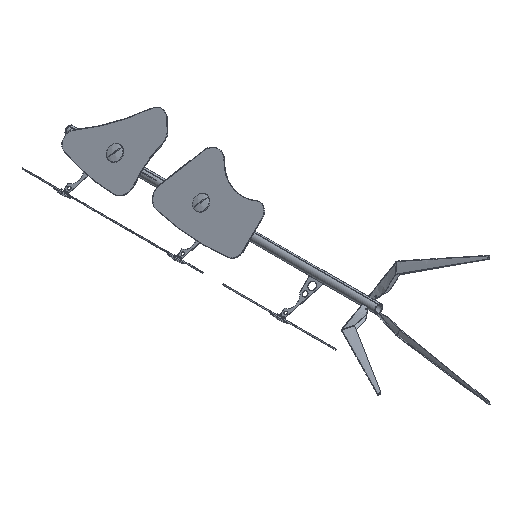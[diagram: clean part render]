
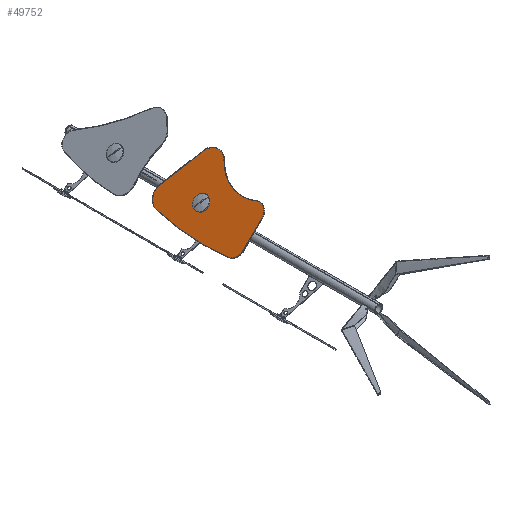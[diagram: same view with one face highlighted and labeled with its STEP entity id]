
A CAD part, isometric view. The second image highlights one B-rep face of the part: STEP entity #49752.
In plain terms, the highlighted planar face has unit normal (-0.707, 0, 0.707).
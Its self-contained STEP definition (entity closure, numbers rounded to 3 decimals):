
#350 = DIRECTION ( 'NONE',  ( 0.707, -0.002, 0.707 ) ) ;
#981 = DIRECTION ( 'NONE',  ( 0.165, 0.972, 0.165 ) ) ;
#1439 = VERTEX_POINT ( 'NONE', #40083 ) ;
#2820 = AXIS2_PLACEMENT_3D ( 'NONE', #37188, #12757, #981 ) ;
#4659 = CARTESIAN_POINT ( 'NONE',  ( -161.239, 424.54, 85.541 ) ) ;
#4828 = FACE_BOUND ( 'NONE', #33213, .T. ) ;
#4867 = CARTESIAN_POINT ( 'NONE',  ( -32.459, 424.156, 214.321 ) ) ;
#5052 = ORIENTED_EDGE ( 'NONE', *, *, #23536, .T. ) ;
#5079 = DIRECTION ( 'NONE',  ( 0.165, 0.972, 0.165 ) ) ;
#5292 = ORIENTED_EDGE ( 'NONE', *, *, #52045, .T. ) ;
#5536 = VERTEX_POINT ( 'NONE', #49324 ) ;
#6674 = DIRECTION ( 'NONE',  ( -0.707, 0., 0.707 ) ) ;
#6862 = DIRECTION ( 'NONE',  ( 0.165, 0.972, 0.165 ) ) ;
#7805 = EDGE_CURVE ( 'NONE', #10611, #35085, #17494, .T. ) ;
#8104 = ORIENTED_EDGE ( 'NONE', *, *, #26688, .T. ) ;
#8793 = EDGE_CURVE ( 'NONE', #19416, #11682, #24288, .T. ) ;
#9175 = DIRECTION ( 'NONE',  ( 0.165, 0.972, 0.165 ) ) ;
#10146 = CIRCLE ( 'NONE', #51216, 1131.5 ) ;
#10611 = VERTEX_POINT ( 'NONE', #17339 ) ;
#11046 = ORIENTED_EDGE ( 'NONE', *, *, #14835, .T. ) ;
#11682 = VERTEX_POINT ( 'NONE', #46524 ) ;
#12059 = AXIS2_PLACEMENT_3D ( 'NONE', #16368, #16652, #5079 ) ;
#12430 = EDGE_CURVE ( 'NONE', #39413, #1439, #39643, .T. ) ;
#12438 = DIRECTION ( 'NONE',  ( 0.165, 0.972, 0.165 ) ) ;
#12757 = DIRECTION ( 'NONE',  ( -0.707, 0., 0.707 ) ) ;
#14306 = DIRECTION ( 'NONE',  ( 0.165, 0.972, 0.165 ) ) ;
#14341 = ORIENTED_EDGE ( 'NONE', *, *, #12430, .T. ) ;
#14835 = EDGE_CURVE ( 'NONE', #30117, #38078, #49887, .T. ) ;
#15000 = ORIENTED_EDGE ( 'NONE', *, *, #33930, .T. ) ;
#16250 = DIRECTION ( 'NONE',  ( -0.707, 0., 0.707 ) ) ;
#16368 = CARTESIAN_POINT ( 'NONE',  ( -143.161, 772.991, 103.619 ) ) ;
#16623 = ORIENTED_EDGE ( 'NONE', *, *, #38451, .T. ) ;
#16652 = DIRECTION ( 'NONE',  ( -0.707, 0., 0.707 ) ) ;
#16673 = AXIS2_PLACEMENT_3D ( 'NONE', #30335, #34860, #19045 ) ;
#17339 = CARTESIAN_POINT ( 'NONE',  ( -116.781, 646.024, 130. ) ) ;
#17374 = VECTOR ( 'NONE', #350, 1000. ) ;
#17494 = CIRCLE ( 'NONE', #47405, 2.5 ) ;
#19045 = DIRECTION ( 'NONE',  ( 0.165, 0.972, 0.165 ) ) ;
#19383 = CARTESIAN_POINT ( 'NONE',  ( 46.228, 529.386, 293.008 ) ) ;
#19416 = VERTEX_POINT ( 'NONE', #44992 ) ;
#19498 = DIRECTION ( 'NONE',  ( -0.707, 0., 0.707 ) ) ;
#19647 = AXIS2_PLACEMENT_3D ( 'NONE', #19383, #43209, #26659 ) ;
#20233 = DIRECTION ( 'NONE',  ( 0.707, 0., -0.707 ) ) ;
#21019 = DIRECTION ( 'NONE',  ( 0.707, 0., -0.707 ) ) ;
#21071 = CIRCLE ( 'NONE', #39017, 39.5 ) ;
#21780 = FACE_OUTER_BOUND ( 'NONE', #22119, .T. ) ;
#22119 = EDGE_LOOP ( 'NONE', ( #32062, #11046, #5292, #5052, #16623, #33745, #46445, #8104, #14341 ) ) ;
#22297 = CIRCLE ( 'NONE', #29133, 2.5 ) ;
#23536 = EDGE_CURVE ( 'NONE', #35922, #5536, #10146, .T. ) ;
#23552 = CARTESIAN_POINT ( 'NONE',  ( 607.669, 565.066, 854.449 ) ) ;
#23644 = VECTOR ( 'NONE', #24347, 1000. ) ;
#24288 = CIRCLE ( 'NONE', #2820, 39.5 ) ;
#24347 = DIRECTION ( 'NONE',  ( -0.635, 0.44, -0.635 ) ) ;
#24848 = CIRCLE ( 'NONE', #12059, 49.5 ) ;
#24863 = CARTESIAN_POINT ( 'NONE',  ( -16.645, 740.397, 230.136 ) ) ;
#26334 = CARTESIAN_POINT ( 'NONE',  ( -32.053, 695.952, 214.727 ) ) ;
#26659 = DIRECTION ( 'NONE',  ( 0.165, 0.972, 0.165 ) ) ;
#26688 = EDGE_CURVE ( 'NONE', #11682, #39413, #46153, .T. ) ;
#26966 = CARTESIAN_POINT ( 'NONE',  ( -115.956, 650.886, 130.824 ) ) ;
#28333 = CARTESIAN_POINT ( 'NONE',  ( -134.998, 821.126, 111.783 ) ) ;
#28824 = CARTESIAN_POINT ( 'NONE',  ( -116.368, 648.455, 130.412 ) ) ;
#29133 = AXIS2_PLACEMENT_3D ( 'NONE', #29323, #21019, #9175 ) ;
#29323 = CARTESIAN_POINT ( 'NONE',  ( -116.368, 648.455, 130.412 ) ) ;
#29456 = CARTESIAN_POINT ( 'NONE',  ( -127.753, 817.437, 119.028 ) ) ;
#30117 = VERTEX_POINT ( 'NONE', #29456 ) ;
#30335 = CARTESIAN_POINT ( 'NONE',  ( -32.053, 695.952, 214.727 ) ) ;
#30915 = CARTESIAN_POINT ( 'NONE',  ( -177.511, 782.503, 69.27 ) ) ;
#31110 = AXIS2_PLACEMENT_3D ( 'NONE', #48944, #16250, #49470 ) ;
#32062 = ORIENTED_EDGE ( 'NONE', *, *, #38103, .T. ) ;
#33213 = EDGE_LOOP ( 'NONE', ( #40845, #15000 ) ) ;
#33745 = ORIENTED_EDGE ( 'NONE', *, *, #47923, .T. ) ;
#33930 = EDGE_CURVE ( 'NONE', #35085, #10611, #22297, .T. ) ;
#34860 = DIRECTION ( 'NONE',  ( 0.707, 0., -0.707 ) ) ;
#35085 = VERTEX_POINT ( 'NONE', #26966 ) ;
#35505 = CARTESIAN_POINT ( 'NONE',  ( -161.18, 464.04, 85.6 ) ) ;
#35922 = VERTEX_POINT ( 'NONE', #30915 ) ;
#37188 = CARTESIAN_POINT ( 'NONE',  ( -79.863, 463.798, 166.917 ) ) ;
#37602 = LINE ( 'NONE', #4867, #17374 ) ;
#38078 = VERTEX_POINT ( 'NONE', #28333 ) ;
#38103 = EDGE_CURVE ( 'NONE', #1439, #30117, #44632, .T. ) ;
#38451 = EDGE_CURVE ( 'NONE', #5536, #46384, #21071, .T. ) ;
#39017 = AXIS2_PLACEMENT_3D ( 'NONE', #35505, #51552, #14306 ) ;
#39413 = VERTEX_POINT ( 'NONE', #46080 ) ;
#39643 = CIRCLE ( 'NONE', #48214, 49.5 ) ;
#40083 = CARTESIAN_POINT ( 'NONE',  ( -16.645, 740.397, 230.136 ) ) ;
#40845 = ORIENTED_EDGE ( 'NONE', *, *, #7805, .T. ) ;
#41570 = PLANE ( 'NONE',  #16673 ) ;
#42378 = DIRECTION ( 'NONE',  ( 0.165, 0.972, 0.165 ) ) ;
#43209 = DIRECTION ( 'NONE',  ( 0.707, 0., -0.707 ) ) ;
#44632 = LINE ( 'NONE', #24863, #23644 ) ;
#44992 = CARTESIAN_POINT ( 'NONE',  ( -79.922, 424.298, 166.858 ) ) ;
#46080 = CARTESIAN_POINT ( 'NONE',  ( -12.679, 654.727, 234.102 ) ) ;
#46153 = CIRCLE ( 'NONE', #19647, 150.5 ) ;
#46384 = VERTEX_POINT ( 'NONE', #4659 ) ;
#46445 = ORIENTED_EDGE ( 'NONE', *, *, #8793, .T. ) ;
#46524 = CARTESIAN_POINT ( 'NONE',  ( -53.65, 477.433, 193.131 ) ) ;
#47405 = AXIS2_PLACEMENT_3D ( 'NONE', #28824, #20233, #12438 ) ;
#47923 = EDGE_CURVE ( 'NONE', #46384, #19416, #37602, .T. ) ;
#48214 = AXIS2_PLACEMENT_3D ( 'NONE', #26334, #6674, #42378 ) ;
#48944 = CARTESIAN_POINT ( 'NONE',  ( -143.161, 772.991, 103.619 ) ) ;
#49324 = CARTESIAN_POINT ( 'NONE',  ( -188.991, 460.386, 57.789 ) ) ;
#49470 = DIRECTION ( 'NONE',  ( 0.165, 0.972, 0.165 ) ) ;
#49752 = ADVANCED_FACE ( 'NONE', ( #21780, #4828 ), #41570, .F. ) ;
#49887 = CIRCLE ( 'NONE', #31110, 49.5 ) ;
#51216 = AXIS2_PLACEMENT_3D ( 'NONE', #23552, #19498, #6862 ) ;
#51552 = DIRECTION ( 'NONE',  ( -0.707, 0., 0.707 ) ) ;
#52045 = EDGE_CURVE ( 'NONE', #38078, #35922, #24848, .T. ) ;
